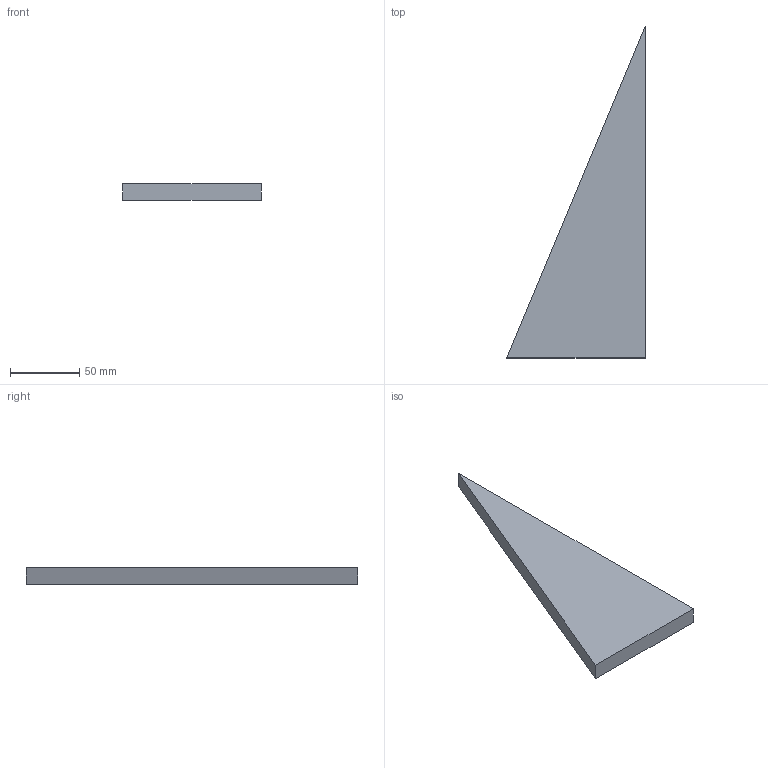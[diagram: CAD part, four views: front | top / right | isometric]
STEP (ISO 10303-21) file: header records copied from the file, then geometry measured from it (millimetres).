
FILE_DESCRIPTION(('Open CASCADE Model'),'2;1');
FILE_NAME('Open CASCADE Shape Model','2026-10-19T10:09:19',('Author'),( 'Open CASCADE'),'Open CASCADE STEP processor 8.0','Open CASCADE 8.0' ,'Unknown');
FILE_SCHEMA(('AUTOMOTIVE_DESIGN { 1 0 10303 214 1 1 1 1 }'));
Length unit declared in the file: millimetre
Products named in the file (1): U01_CARTELA_100x240x12_P05 28
Bounding box: 100 x 240 x 12 mm (x, y, z)
Volume: 144000 mm3; surface area: 31200 mm2
Topology: 1 solids, 1 shells, 5 faces, 9 edges, 6 vertices
Faces by surface type: plane 5
Entity records: 250 total; most frequent: CARTESIAN_POINT 39, DIRECTION 39, LINE 27, VECTOR 27, ORIENTED_EDGE 18, PCURVE 18, DEFINITIONAL_REPRESENTATION 18, EDGE_CURVE 9
